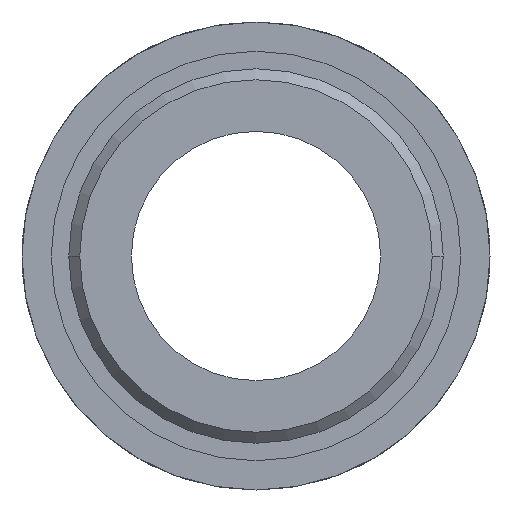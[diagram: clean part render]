
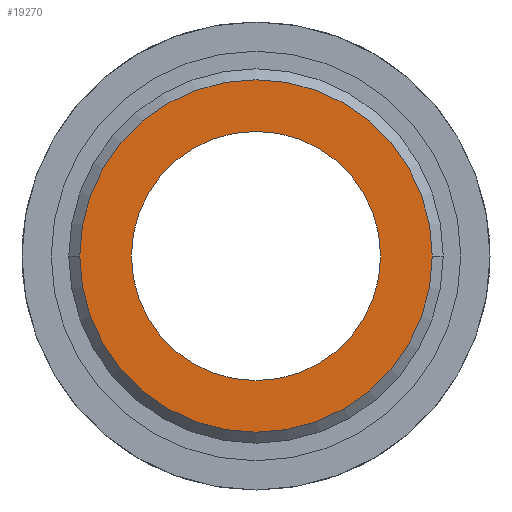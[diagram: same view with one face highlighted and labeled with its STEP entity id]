
A CAD part, left-side view. The second image highlights one B-rep face of the part: STEP entity #19270.
In plain terms, the highlighted planar face has unit normal (-1, 0, 0) as drawn and (0, -1, 0) by its records, which use the part's own axes.
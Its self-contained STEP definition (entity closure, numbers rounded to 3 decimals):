
#18880=CARTESIAN_POINT('',(15.065,0.,0.));
#18890=DIRECTION('',(0.,1.,0.));
#18900=DIRECTION('',(0.,0.,1.));
#18910=AXIS2_PLACEMENT_3D('',#18880,#18890,#18900);
#18920=PLANE('',#18910);
#18930=CARTESIAN_POINT('',(0.,0.,0.));
#18940=DIRECTION('',(0.,1.,0.));
#18950=DIRECTION('',(0.,0.,-1.));
#18960=AXIS2_PLACEMENT_3D('',#18930,#18940,#18950);
#18970=CIRCLE('',#18960,10.65);
#18980=CARTESIAN_POINT('',(0.,0.,-10.65));
#18990=VERTEX_POINT('',#18980);
#19000=CARTESIAN_POINT('',(0.,0.,10.65));
#19010=VERTEX_POINT('',#19000);
#19020=EDGE_CURVE('',#18990,#19010,#18970,.T.);
#19030=ORIENTED_EDGE('',*,*,#19020,.T.);
#19040=EDGE_CURVE('',#19010,#18990,#18970,.T.);
#19050=ORIENTED_EDGE('',*,*,#19040,.T.);
#19060=EDGE_LOOP('',(#19050,#19030));
#19070=FACE_BOUND('',#19060,.T.);
#19080=CARTESIAN_POINT('',(0.,0.,0.));
#19090=DIRECTION('',(0.,-1.,0.));
#19100=DIRECTION('',(0.,0.,-1.));
#19110=AXIS2_PLACEMENT_3D('',#19080,#19090,#19100);
#19120=CIRCLE('',#19110,15.065);
#19130=CARTESIAN_POINT('',(15.065,0.,0.));
#19140=VERTEX_POINT('',#19130);
#19150=CARTESIAN_POINT('',(-15.065,0.,
0.));
#19160=VERTEX_POINT('',#19150);
#19170=EDGE_CURVE('',#19140,#19160,#19120,.T.);
#19180=ORIENTED_EDGE('',*,*,#19170,.T.);
#19190=CARTESIAN_POINT('',(0.,0.,
-15.065));
#19200=VERTEX_POINT('',#19190);
#19210=EDGE_CURVE('',#19200,#19140,#19120,.T.);
#19220=ORIENTED_EDGE('',*,*,#19210,.T.);
#19230=EDGE_CURVE('',#19160,#19200,#19120,.T.);
#19240=ORIENTED_EDGE('',*,*,#19230,.T.);
#19250=EDGE_LOOP('',(#19240,#19220,#19180));
#19260=FACE_OUTER_BOUND('',#19250,.T.);
#19270=ADVANCED_FACE('',(#19070,#19260),#18920,.F.);
